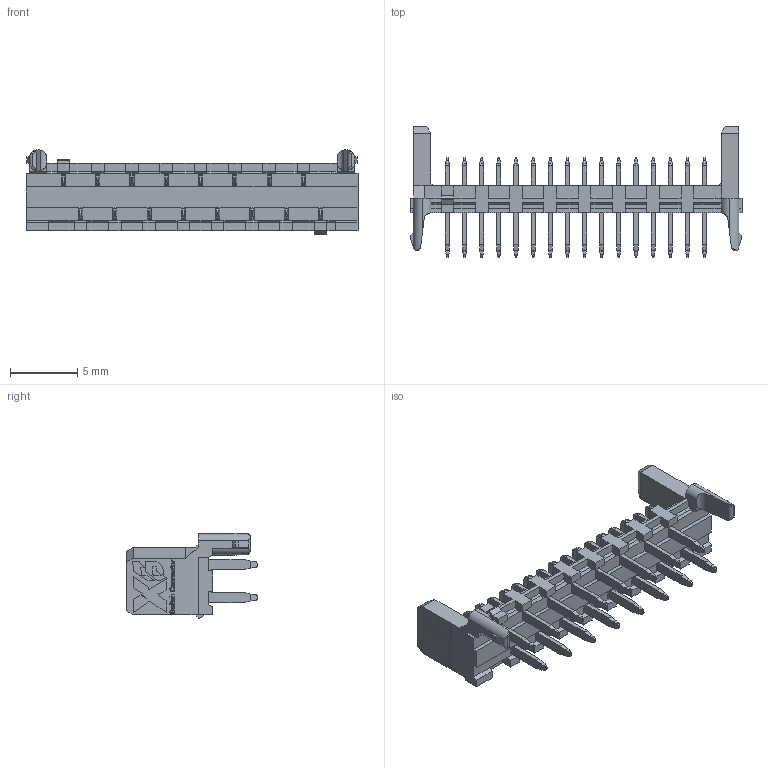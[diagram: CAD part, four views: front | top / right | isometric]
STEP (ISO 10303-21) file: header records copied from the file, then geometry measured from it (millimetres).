
FILE_DESCRIPTION((''),'2;1');
FILE_NAME('XB-CA-3516V1100-NH_ASM','2024-08-09T16:11:28',('Admin'),(''),'CREO PARAMETRIC BY PTC INC, 2022073','CREO PARAMETRIC BY PTC INC, 2022073','');
FILE_SCHEMA(('CONFIG_CONTROL_DESIGN'));
Length unit declared in the file: millimetre
Products named in the file (4): CONTACT-2_1_2_3_4_5_6; BASE-_AA_16; CA3516V1100-NH_ASM; XB-CA-3516V1100-NH_ASM
Assembly tree (18 placements, depth 3):
  XB-CA-3516V1100-NH_ASM
    CA3516V1100-NH_ASM
      CONTACT-2_1_2_3_4_5_6  x16
      BASE-_AA_16
Bounding box: 24.6 x 9.7 x 6.25 mm (x, y, z)
Volume: 265.4 mm3; surface area: 1055.1 mm2
Topology: 17 solids, 17 shells, 2037 faces, 5840 edges, 3876 vertices
Faces by surface type: plane 1590, cylinder 416, extrusion 31
Entity records: 29803 total; most frequent: CARTESIAN_POINT 6049, ORIENTED_EDGE 5110, DIRECTION 4460, EDGE_CURVE 2555, VECTOR 2366, LINE 2335, VERTEX_POINT 1686, AXIS2_PLACEMENT_3D 1047
